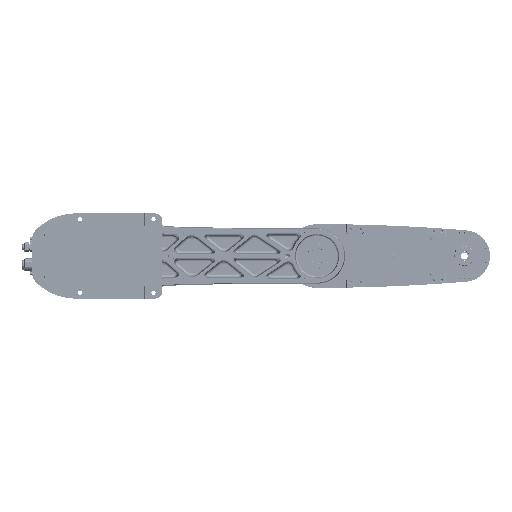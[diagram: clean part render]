
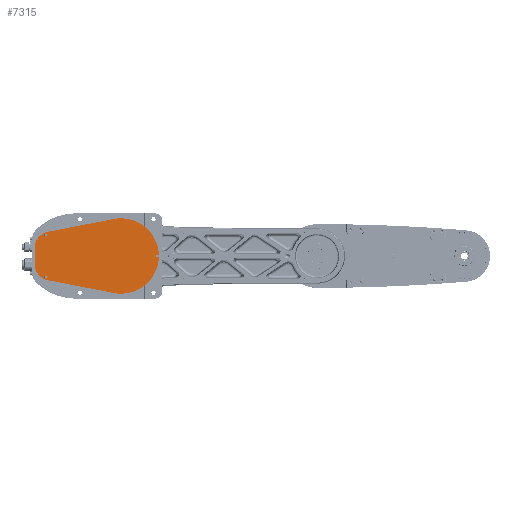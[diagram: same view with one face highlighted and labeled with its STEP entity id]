
A CAD part, front view. The second image highlights one B-rep face of the part: STEP entity #7315.
In plain terms, the highlighted planar face has unit normal (0, -1, 0).
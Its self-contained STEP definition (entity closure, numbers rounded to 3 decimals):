
#7315=ADVANCED_FACE('NONE',(#19193,#19194,#19195,#19196,#19197),#19198,.T.);
#19193=FACE_OUTER_BOUND('',#45757,.T.);
#19194=FACE_BOUND('',#45758,.T.);
#19195=FACE_BOUND('',#45759,.T.);
#19196=FACE_BOUND('',#45760,.T.);
#19197=FACE_BOUND('',#45761,.T.);
#19198=PLANE('',#45762);
#45757=EDGE_LOOP('',(#95669,#95670,#95671,#95672,#95673,#95674,#95675,#95676));
#45758=EDGE_LOOP('',(#95677,#95678));
#45759=EDGE_LOOP('',(#95679,#95680));
#45760=EDGE_LOOP('',(#95681,#95682));
#45761=EDGE_LOOP('',(#95683,#95684));
#45762=AXIS2_PLACEMENT_3D('',#95685,#95686,#95687);
#95669=ORIENTED_EDGE('',*,*,#136447,.F.);
#95670=ORIENTED_EDGE('',*,*,#136448,.F.);
#95671=ORIENTED_EDGE('',*,*,#136449,.F.);
#95672=ORIENTED_EDGE('',*,*,#136450,.F.);
#95673=ORIENTED_EDGE('',*,*,#136451,.F.);
#95674=ORIENTED_EDGE('',*,*,#136452,.F.);
#95675=ORIENTED_EDGE('',*,*,#136444,.F.);
#95676=ORIENTED_EDGE('',*,*,#136440,.F.);
#95677=ORIENTED_EDGE('',*,*,#136425,.T.);
#95678=ORIENTED_EDGE('',*,*,#136453,.T.);
#95679=ORIENTED_EDGE('',*,*,#136435,.T.);
#95680=ORIENTED_EDGE('',*,*,#136454,.T.);
#95681=ORIENTED_EDGE('',*,*,#136430,.T.);
#95682=ORIENTED_EDGE('',*,*,#136455,.T.);
#95683=ORIENTED_EDGE('',*,*,#136456,.T.);
#95684=ORIENTED_EDGE('',*,*,#136413,.T.);
#95685=CARTESIAN_POINT('',(0.0,4.0,0.0));
#95686=DIRECTION('',(0.0,-1.0,0.0));
#95687=DIRECTION('',(0.0,0.0,-1.0));
#136413=EDGE_CURVE('NONE',#155870,#155871,#155872,.T.);
#136425=EDGE_CURVE('NONE',#155893,#155891,#155894,.T.);
#136430=EDGE_CURVE('NONE',#155902,#155900,#155903,.T.);
#136435=EDGE_CURVE('NONE',#155911,#155909,#155912,.T.);
#136440=EDGE_CURVE('NONE',#155918,#155920,#155921,.T.);
#136444=EDGE_CURVE('NONE',#155920,#155926,#155927,.T.);
#136447=EDGE_CURVE('NONE',#155930,#155918,#155931,.T.);
#136448=EDGE_CURVE('NONE',#155932,#155930,#155933,.T.);
#136449=EDGE_CURVE('NONE',#155934,#155932,#155935,.T.);
#136450=EDGE_CURVE('NONE',#155936,#155934,#155937,.T.);
#136451=EDGE_CURVE('NONE',#155938,#155936,#155939,.T.);
#136452=EDGE_CURVE('NONE',#155926,#155938,#155940,.T.);
#136453=EDGE_CURVE('NONE',#155891,#155893,#155941,.T.);
#136454=EDGE_CURVE('NONE',#155909,#155911,#155942,.T.);
#136455=EDGE_CURVE('NONE',#155900,#155902,#155943,.T.);
#136456=EDGE_CURVE('NONE',#155871,#155870,#155944,.T.);
#155870=VERTEX_POINT('NONE',#190175);
#155871=VERTEX_POINT('NONE',#190176);
#155872=CIRCLE('',#190177,1.25);
#155891=VERTEX_POINT('NONE',#190200);
#155893=VERTEX_POINT('NONE',#190203);
#155894=CIRCLE('',#190204,1.75);
#155900=VERTEX_POINT('NONE',#190211);
#155902=VERTEX_POINT('NONE',#190214);
#155903=CIRCLE('',#190215,1.75);
#155909=VERTEX_POINT('NONE',#190222);
#155911=VERTEX_POINT('NONE',#190225);
#155912=CIRCLE('',#190226,1.75);
#155918=VERTEX_POINT('NONE',#190233);
#155920=VERTEX_POINT('NONE',#190236);
#155921=CIRCLE('',#190237,77.0);
#155926=VERTEX_POINT('NONE',#190243);
#155927=CIRCLE('',#190244,77.0);
#155930=VERTEX_POINT('NONE',#190248);
#155931=CIRCLE('',#190249,77.0);
#155932=VERTEX_POINT('NONE',#190250);
#155933=LINE('',#190251,#190252);
#155934=VERTEX_POINT('NONE',#190253);
#155935=CIRCLE('',#190254,33.5);
#155936=VERTEX_POINT('NONE',#190255);
#155937=LINE('',#190256,#190257);
#155938=VERTEX_POINT('NONE',#190258);
#155939=CIRCLE('',#190259,33.5);
#155940=LINE('',#190260,#190261);
#155941=CIRCLE('',#190262,1.75);
#155942=CIRCLE('',#190263,1.75);
#155943=CIRCLE('',#190264,1.75);
#155944=CIRCLE('',#190265,1.25);
#190175=CARTESIAN_POINT('',(-100.0,4.0,-1.25));
#190176=CARTESIAN_POINT('',(-100.0,4.0,1.25));
#190177=AXIS2_PLACEMENT_3D('',#242179,#242180,#242181);
#190200=CARTESIAN_POINT('',(-154.,4.0,44.75));
#190203=CARTESIAN_POINT('',(-154.,4.0,41.25));
#190204=AXIS2_PLACEMENT_3D('',#242199,#242200,#242201);
#190211=CARTESIAN_POINT('',(-154.,4.0,-41.25));
#190214=CARTESIAN_POINT('',(-154.,4.0,-44.75));
#190215=AXIS2_PLACEMENT_3D('',#242207,#242208,#242209);
#190222=CARTESIAN_POINT('',(74.,4.0,1.75));
#190225=CARTESIAN_POINT('',(74.,4.0,-1.75));
#190226=AXIS2_PLACEMENT_3D('',#242215,#242216,#242217);
#190233=CARTESIAN_POINT('',(0.,4.0,77.0));
#190236=CARTESIAN_POINT('',(0.0,4.0,-77.0));
#190237=AXIS2_PLACEMENT_3D('',#242223,#242224,#242225);
#190243=CARTESIAN_POINT('',(-14.702,4.0,-75.583));
#190244=AXIS2_PLACEMENT_3D('',#242230,#242231,#242232);
#190248=CARTESIAN_POINT('',(-14.702,4.0,75.583));
#190249=AXIS2_PLACEMENT_3D('',#242234,#242235,#242236);
#190250=CARTESIAN_POINT('',(-149.396,4.0,49.384));
#190251=CARTESIAN_POINT('',(-14.702,4.0,75.583));
#190252=VECTOR('',#242237,1000.0);
#190253=CARTESIAN_POINT('',(-176.5,4.0,16.5));
#190254=AXIS2_PLACEMENT_3D('',#242238,#242239,#242240);
#190255=CARTESIAN_POINT('',(-176.5,4.0,-16.5));
#190256=CARTESIAN_POINT('',(-176.5,4.0,-16.5));
#190257=VECTOR('',#242241,1000.0);
#190258=CARTESIAN_POINT('',(-149.396,4.0,-49.384));
#190259=AXIS2_PLACEMENT_3D('',#242242,#242243,#242244);
#190260=CARTESIAN_POINT('',(-14.702,4.0,-75.583));
#190261=VECTOR('',#242245,1000.0);
#190262=AXIS2_PLACEMENT_3D('',#242246,#242247,#242248);
#190263=AXIS2_PLACEMENT_3D('',#242249,#242250,#242251);
#190264=AXIS2_PLACEMENT_3D('',#242252,#242253,#242254);
#190265=AXIS2_PLACEMENT_3D('',#242255,#242256,#242257);
#242179=CARTESIAN_POINT('',(-100.0,4.0,0.0));
#242180=DIRECTION('',(0.0,1.0,0.0));
#242181=DIRECTION('',(0.0,0.0,-1.0));
#242199=CARTESIAN_POINT('',(-154.,4.0,43.0));
#242200=DIRECTION('',(0.0,1.0,0.0));
#242201=DIRECTION('',(0.0,0.0,-1.0));
#242207=CARTESIAN_POINT('',(-154.,4.0,-43.0));
#242208=DIRECTION('',(0.0,1.0,0.0));
#242209=DIRECTION('',(0.0,0.0,1.0));
#242215=CARTESIAN_POINT('',(74.,4.0,0.0));
#242216=DIRECTION('',(0.0,1.0,0.0));
#242217=DIRECTION('',(0.0,0.0,1.0));
#242223=CARTESIAN_POINT('',(0.0,4.0,0.0));
#242224=DIRECTION('',(0.0,1.0,0.0));
#242225=DIRECTION('',(0.0,0.0,-1.0));
#242230=CARTESIAN_POINT('',(0.0,4.0,0.0));
#242231=DIRECTION('',(0.0,1.0,0.0));
#242232=DIRECTION('',(0.0,0.0,-1.0));
#242234=CARTESIAN_POINT('',(0.0,4.0,0.0));
#242235=DIRECTION('',(0.0,1.0,0.0));
#242236=DIRECTION('',(0.0,0.0,-1.0));
#242237=DIRECTION('',(0.982,0.0,0.191));
#242238=CARTESIAN_POINT('',(-143.,4.0,16.5));
#242239=DIRECTION('',(0.0,1.0,0.0));
#242240=DIRECTION('',(0.0,0.0,-1.0));
#242241=DIRECTION('',(0.0,0.0,1.0));
#242242=CARTESIAN_POINT('',(-143.,4.0,-16.5));
#242243=DIRECTION('',(0.0,1.0,0.0));
#242244=DIRECTION('',(0.0,0.0,1.0));
#242245=DIRECTION('',(-0.982,0.0,0.191));
#242246=CARTESIAN_POINT('',(-154.,4.0,43.0));
#242247=DIRECTION('',(0.0,1.0,0.0));
#242248=DIRECTION('',(0.0,0.0,-1.0));
#242249=CARTESIAN_POINT('',(74.,4.0,0.0));
#242250=DIRECTION('',(0.0,1.0,0.0));
#242251=DIRECTION('',(0.0,0.0,1.0));
#242252=CARTESIAN_POINT('',(-154.,4.0,-43.0));
#242253=DIRECTION('',(0.0,1.0,0.0));
#242254=DIRECTION('',(0.0,0.0,1.0));
#242255=CARTESIAN_POINT('',(-100.0,4.0,0.0));
#242256=DIRECTION('',(0.0,1.0,0.0));
#242257=DIRECTION('',(0.0,0.0,-1.0));
